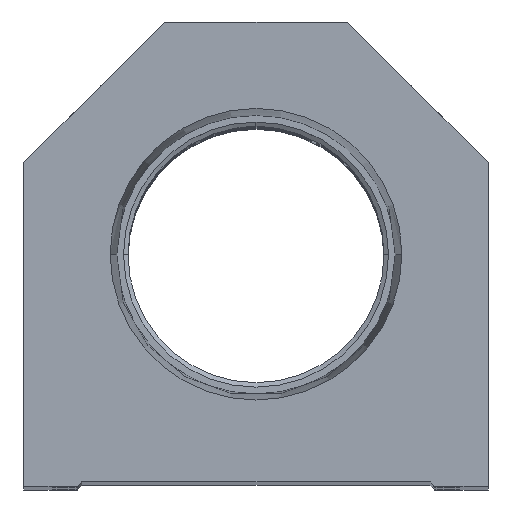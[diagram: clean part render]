
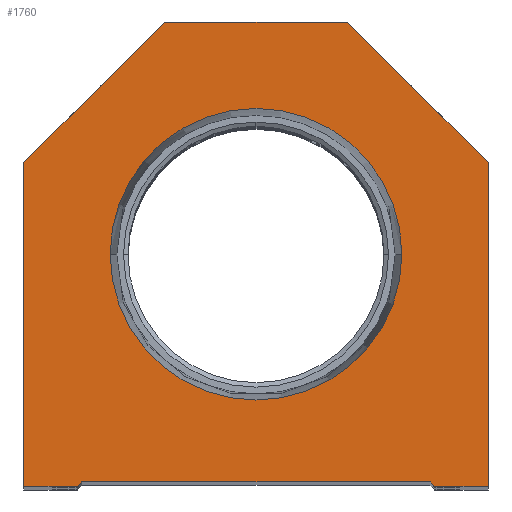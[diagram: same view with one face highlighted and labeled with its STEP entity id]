
A CAD part, top view. The second image highlights one B-rep face of the part: STEP entity #1760.
In plain terms, the highlighted planar face has unit normal (0, 0, 1).
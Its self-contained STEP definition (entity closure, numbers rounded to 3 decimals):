
#248 = CARTESIAN_POINT ( 'NONE',  ( 25.4, 0., 0. ) ) ;
#438 = CARTESIAN_POINT ( 'NONE',  ( -25.4, 0., 0. ) ) ;
#532 = ORIENTED_EDGE ( 'NONE', *, *, #19116, .T. ) ;
#805 = LINE ( 'NONE', #10982, #2275 ) ;
#844 = VECTOR ( 'NONE', #4551, 1000. ) ;
#1067 = DIRECTION ( 'NONE',  ( 0.707, 0.707, 0. ) ) ;
#1179 = ORIENTED_EDGE ( 'NONE', *, *, #1521, .T. ) ;
#1521 = EDGE_CURVE ( 'NONE', #9576, #15871, #11018, .T. ) ;
#1556 = CARTESIAN_POINT ( 'NONE',  ( 0., 25.4, 0. ) ) ;
#1613 = CARTESIAN_POINT ( 'NONE',  ( -19.05, 0.5, 0. ) ) ;
#1684 = EDGE_CURVE ( 'NONE', #13228, #20062, #9396, .T. ) ;
#1692 = LINE ( 'NONE', #12779, #11423 ) ;
#1726 = VERTEX_POINT ( 'NONE', #13490 ) ;
#1760 = ADVANCED_FACE ( 'NONE', ( #14775, #11599 ), #13093, .T. ) ;
#2165 = DIRECTION ( 'NONE',  ( 0., -1., 0. ) ) ;
#2275 = VECTOR ( 'NONE', #12683, 1000. ) ;
#2325 = EDGE_CURVE ( 'NONE', #9563, #1726, #15841, .T. ) ;
#3129 = VECTOR ( 'NONE', #5827, 1000. ) ;
#3205 = VECTOR ( 'NONE', #6393, 1000. ) ;
#3247 = DIRECTION ( 'NONE',  ( 1., 0., 0. ) ) ;
#3392 = VERTEX_POINT ( 'NONE', #11649 ) ;
#3843 = LINE ( 'NONE', #13547, #19292 ) ;
#4461 = CARTESIAN_POINT ( 'NONE',  ( -10., 50.8, 0. ) ) ;
#4538 = VECTOR ( 'NONE', #19729, 1000. ) ;
#4551 = DIRECTION ( 'NONE',  ( 1., 0., 0. ) ) ;
#4554 = EDGE_CURVE ( 'NONE', #10874, #6160, #805, .T. ) ;
#5059 = DIRECTION ( 'NONE',  ( 1., 0., 0. ) ) ;
#5699 = CIRCLE ( 'NONE', #11770, 15.947 ) ;
#5725 = LINE ( 'NONE', #15422, #3129 ) ;
#5827 = DIRECTION ( 'NONE',  ( -0.707, -0.707, 0. ) ) ;
#6160 = VERTEX_POINT ( 'NONE', #248 ) ;
#6342 = VECTOR ( 'NONE', #1067, 1000. ) ;
#6393 = DIRECTION ( 'NONE',  ( -0.707, 0.707, 0. ) ) ;
#6472 = CARTESIAN_POINT ( 'NONE',  ( 10., 50.8, 0. ) ) ;
#6551 = CARTESIAN_POINT ( 'NONE',  ( 19.05, 0.5, 0. ) ) ;
#6709 = ORIENTED_EDGE ( 'NONE', *, *, #13029, .T. ) ;
#6920 = DIRECTION ( 'NONE',  ( 1., 0., 0. ) ) ;
#7189 = EDGE_LOOP ( 'NONE', ( #8392, #12995 ) ) ;
#7264 = AXIS2_PLACEMENT_3D ( 'NONE', #16752, #11699, #19596 ) ;
#7852 = ORIENTED_EDGE ( 'NONE', *, *, #4554, .T. ) ;
#8006 = DIRECTION ( 'NONE',  ( 0., 0., 1. ) ) ;
#8315 = CARTESIAN_POINT ( 'NONE',  ( -25.4, 35.4, 0. ) ) ;
#8392 = ORIENTED_EDGE ( 'NONE', *, *, #2325, .F. ) ;
#8809 = LINE ( 'NONE', #10397, #19465 ) ;
#8888 = CARTESIAN_POINT ( 'NONE',  ( 15.947, 25.4, 0. ) ) ;
#8992 = LINE ( 'NONE', #15531, #6342 ) ;
#9011 = CARTESIAN_POINT ( 'NONE',  ( -25.4, 0., 0. ) ) ;
#9396 = LINE ( 'NONE', #12663, #844 ) ;
#9563 = VERTEX_POINT ( 'NONE', #8888 ) ;
#9576 = VERTEX_POINT ( 'NONE', #15638 ) ;
#9959 = VERTEX_POINT ( 'NONE', #8315 ) ;
#10153 = VERTEX_POINT ( 'NONE', #4461 ) ;
#10215 = EDGE_CURVE ( 'NONE', #3392, #13228, #8992, .T. ) ;
#10397 = CARTESIAN_POINT ( 'NONE',  ( -19.05, 0., 0. ) ) ;
#10874 = VERTEX_POINT ( 'NONE', #14436 ) ;
#10982 = CARTESIAN_POINT ( 'NONE',  ( 19.05, 0., 0. ) ) ;
#11018 = LINE ( 'NONE', #15679, #3205 ) ;
#11036 = EDGE_CURVE ( 'NONE', #11362, #3392, #8809, .T. ) ;
#11323 = CARTESIAN_POINT ( 'NONE',  ( 10., 50.8, 0. ) ) ;
#11362 = VERTEX_POINT ( 'NONE', #438 ) ;
#11423 = VECTOR ( 'NONE', #14583, 1000. ) ;
#11509 = EDGE_CURVE ( 'NONE', #1726, #9563, #5699, .T. ) ;
#11599 = FACE_OUTER_BOUND ( 'NONE', #17574, .T. ) ;
#11649 = CARTESIAN_POINT ( 'NONE',  ( -19.55, 0., 0. ) ) ;
#11691 = CARTESIAN_POINT ( 'NONE',  ( 0., 25.4, 0. ) ) ;
#11699 = DIRECTION ( 'NONE',  ( 0., 0., 1. ) ) ;
#11770 = AXIS2_PLACEMENT_3D ( 'NONE', #11691, #18135, #5059 ) ;
#12051 = ORIENTED_EDGE ( 'NONE', *, *, #1684, .T. ) ;
#12663 = CARTESIAN_POINT ( 'NONE',  ( -19.05, 0.5, 0. ) ) ;
#12683 = DIRECTION ( 'NONE',  ( 1., 0., 0. ) ) ;
#12779 = CARTESIAN_POINT ( 'NONE',  ( 25.4, 0., 0. ) ) ;
#12819 = AXIS2_PLACEMENT_3D ( 'NONE', #1556, #8006, #3247 ) ;
#12995 = ORIENTED_EDGE ( 'NONE', *, *, #11509, .F. ) ;
#13029 = EDGE_CURVE ( 'NONE', #20062, #10874, #3843, .T. ) ;
#13093 = PLANE ( 'NONE',  #7264 ) ;
#13228 = VERTEX_POINT ( 'NONE', #1613 ) ;
#13330 = ORIENTED_EDGE ( 'NONE', *, *, #14096, .T. ) ;
#13490 = CARTESIAN_POINT ( 'NONE',  ( -15.947, 25.4, 0. ) ) ;
#13547 = CARTESIAN_POINT ( 'NONE',  ( 9.775, 9.775, 0. ) ) ;
#13757 = DIRECTION ( 'NONE',  ( 0.707, -0.707, 0. ) ) ;
#14096 = EDGE_CURVE ( 'NONE', #15871, #10153, #14905, .T. ) ;
#14436 = CARTESIAN_POINT ( 'NONE',  ( 19.55, 0., 0. ) ) ;
#14583 = DIRECTION ( 'NONE',  ( 0., 1., 0. ) ) ;
#14775 = FACE_BOUND ( 'NONE', #7189, .T. ) ;
#14905 = LINE ( 'NONE', #6472, #4538 ) ;
#15009 = ORIENTED_EDGE ( 'NONE', *, *, #11036, .T. ) ;
#15089 = EDGE_CURVE ( 'NONE', #10153, #9959, #5725, .T. ) ;
#15422 = CARTESIAN_POINT ( 'NONE',  ( -25.4, 35.4, 0. ) ) ;
#15531 = CARTESIAN_POINT ( 'NONE',  ( -9.775, 9.775, 0. ) ) ;
#15638 = CARTESIAN_POINT ( 'NONE',  ( 25.4, 35.4, 0. ) ) ;
#15679 = CARTESIAN_POINT ( 'NONE',  ( 25.4, 35.4, 0. ) ) ;
#15776 = ORIENTED_EDGE ( 'NONE', *, *, #17386, .T. ) ;
#15841 = CIRCLE ( 'NONE', #12819, 15.947 ) ;
#15871 = VERTEX_POINT ( 'NONE', #11323 ) ;
#16752 = CARTESIAN_POINT ( 'NONE',  ( 0., 0., 0. ) ) ;
#16829 = ORIENTED_EDGE ( 'NONE', *, *, #15089, .T. ) ;
#17329 = ORIENTED_EDGE ( 'NONE', *, *, #10215, .T. ) ;
#17386 = EDGE_CURVE ( 'NONE', #9959, #11362, #20259, .T. ) ;
#17574 = EDGE_LOOP ( 'NONE', ( #15009, #17329, #12051, #6709, #7852, #532, #1179, #13330, #16829, #15776 ) ) ;
#18135 = DIRECTION ( 'NONE',  ( 0., 0., 1. ) ) ;
#19116 = EDGE_CURVE ( 'NONE', #6160, #9576, #1692, .T. ) ;
#19292 = VECTOR ( 'NONE', #13757, 1000. ) ;
#19465 = VECTOR ( 'NONE', #6920, 1000. ) ;
#19596 = DIRECTION ( 'NONE',  ( 1., 0., 0. ) ) ;
#19729 = DIRECTION ( 'NONE',  ( -1., 0., 0. ) ) ;
#19742 = VECTOR ( 'NONE', #2165, 1000. ) ;
#20062 = VERTEX_POINT ( 'NONE', #6551 ) ;
#20259 = LINE ( 'NONE', #9011, #19742 ) ;
